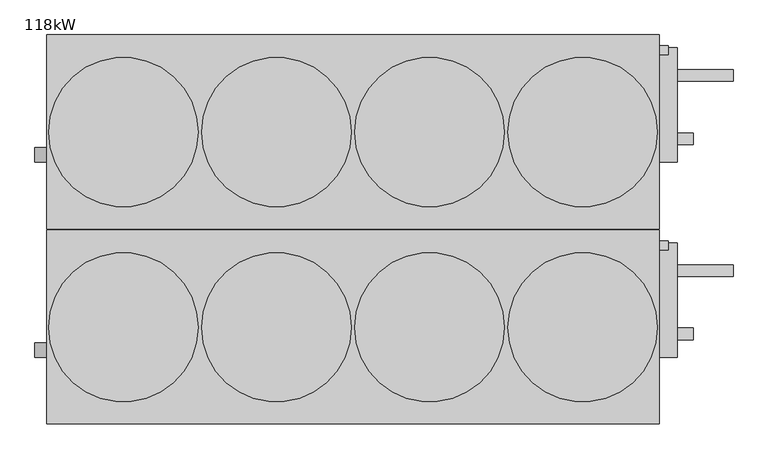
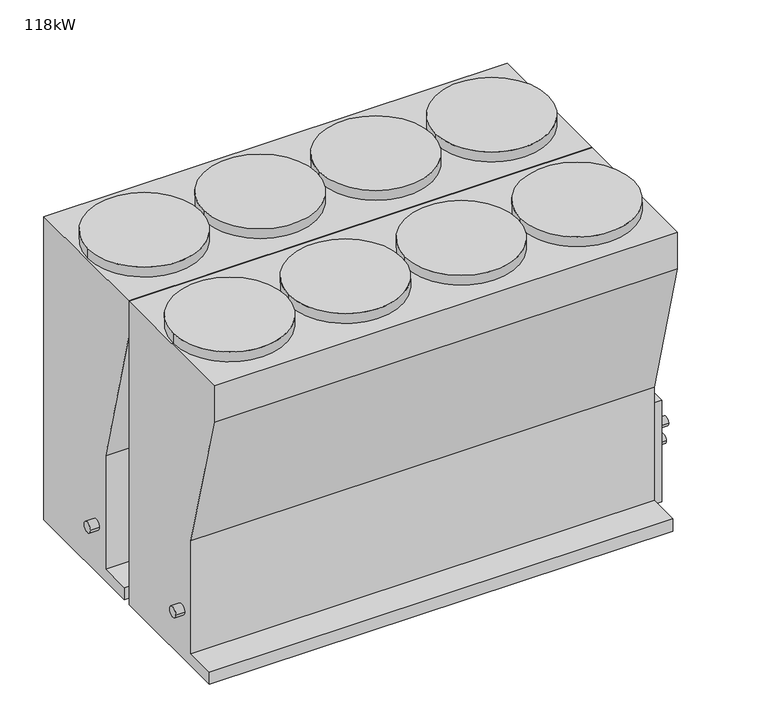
"""IFC4 building model written with IfcOpenShell, lengths in millimetres: unitary equipment geometry, 03020_AHP_空冷モジュールチラー_D : 118kW."""

from ifc_helpers import new_model, si_unit, point, frame, frame_2d, origin, place, context, project, spatial, polyline, circle_curve, trimmed, segment, composite_curve, outline, extrude, source, transform, mapped, element, save


def unitary_equipment_118kw_79313d1a(model_context):
    return source(origin(), model_context, "Body", "SweptSolid", [
        extrude(outline(composite_curve([segment(trimmed(circle_curve(frame_2d((945.7497625, 521.4020041)), 40.0), [point((905.7497625, 521.4020041))], [point((985.7497625, 521.4020041))], False, "CARTESIAN"), True, "CONTINUOUS"), segment(trimmed(circle_curve(frame_2d((945.7497625, 521.4020041)), 40.0), [point((985.7497625, 521.4020041))], [point((905.7497625, 521.4020041))], False, "CARTESIAN"), True, "CONTINUOUS")], self_intersect=False)), frame((-1766.0, 0.0, 0.0), z_axis=(1.0, 0.0, 0.0), x_axis=(0.0, 1.0, 0.0)), (0.0, 0.0, 1.0), 66.0),
        extrude(outline(composite_curve([segment(trimmed(circle_curve(frame_2d((1527.0, 974.0)), 25.0), [point((1502.0, 974.0))], [point((1552.0, 974.0))], False, "CARTESIAN"), True, "CONTINUOUS"), segment(trimmed(circle_curve(frame_2d((1527.0, 974.0)), 25.0), [point((1552.0, 974.0))], [point((1502.0, 974.0))], False, "CARTESIAN"), True, "CONTINUOUS")], self_intersect=False)), frame((1700.0, 0.0, 0.0), z_axis=(1.0, 0.0, 0.0), x_axis=(0.0, 1.0, 0.0)), (0.0, 0.0, 1.0), 51.0),
        extrude(outline(composite_curve([segment(trimmed(circle_curve(frame_2d((1035.645395, 535.0)), 32.5), [point((1003.145395, 535.0))], [point((1068.145395, 535.0))], False, "CARTESIAN"), True, "CONTINUOUS"), segment(trimmed(circle_curve(frame_2d((1035.645395, 535.0)), 32.5), [point((1068.145395, 535.0))], [point((1003.145395, 535.0))], False, "CARTESIAN"), True, "CONTINUOUS")], self_intersect=False)), frame((1800.0, 0.0, 0.0), z_axis=(1.0, 0.0, 0.0), x_axis=(0.0, 1.0, 0.0)), (0.0, 0.0, 1.0), 90.002526),
        extrude(outline(composite_curve([segment(trimmed(circle_curve(frame_2d((1387.6462608, 380.610754)), 32.5), [point((1355.1462608, 380.610754))], [point((1420.1462608, 380.610754))], False, "CARTESIAN"), True, "CONTINUOUS"), segment(trimmed(circle_curve(frame_2d((1387.6462608, 380.610754)), 32.5), [point((1420.1462608, 380.610754))], [point((1355.1462608, 380.610754))], False, "CARTESIAN"), True, "CONTINUOUS")], self_intersect=False)), frame((1800.0, 0.0, 0.0), z_axis=(1.0, 0.0, 0.0), x_axis=(0.0, 1.0, 0.0)), (0.0, 0.0, 1.0), 309.999795),
        extrude(outline(composite_curve([segment(trimmed(circle_curve(frame_2d((-425.0, 1072.648002)), 415.0), [point((-10.0, 1072.648002))], [point((-840.0, 1072.648002))], False, "CARTESIAN"), True, "CONTINUOUS"), segment(trimmed(circle_curve(frame_2d((-425.0, 1072.648002)), 415.0), [point((-840.0, 1072.648002))], [point((-10.0, 1072.648002))], False, "CARTESIAN"), True, "CONTINUOUS")], self_intersect=False)), frame((0.0, 0.0, 2504.0), z_axis=(0.0, 0.0, 1.0), x_axis=(1.0, 0.0, 0.0)), (0.0, 0.0, 1.0), 76.0),
        extrude(outline(composite_curve([segment(trimmed(circle_curve(frame_2d((-1275.0, 1072.648002)), 415.0), [point((-860.0, 1072.648002))], [point((-1690.0, 1072.648002))], False, "CARTESIAN"), True, "CONTINUOUS"), segment(trimmed(circle_curve(frame_2d((-1275.0, 1072.648002)), 415.0), [point((-1690.0, 1072.648002))], [point((-860.0, 1072.648002))], False, "CARTESIAN"), True, "CONTINUOUS")], self_intersect=False)), frame((0.0, 0.0, 2504.0), z_axis=(0.0, 0.0, 1.0), x_axis=(1.0, 0.0, 0.0)), (0.0, 0.0, 1.0), 76.0),
        extrude(outline(composite_curve([segment(trimmed(circle_curve(frame_2d((425.0, 1072.648002)), 415.0), [point((10.0, 1072.648002))], [point((840.0, 1072.648002))], False, "CARTESIAN"), True, "CONTINUOUS"), segment(trimmed(circle_curve(frame_2d((425.0, 1072.648002)), 415.0), [point((840.0, 1072.648002))], [point((10.0, 1072.648002))], False, "CARTESIAN"), True, "CONTINUOUS")], self_intersect=False)), frame((0.0, 0.0, 2504.0), z_axis=(0.0, 0.0, 1.0), x_axis=(1.0, 0.0, 0.0)), (0.0, 0.0, 1.0), 76.0),
        extrude(outline(polyline([(1612.645395, 2504.0), (1612.645395, 150.0), (592.645395, 150.0), (592.645395, 244.142338), (829.3250253, 244.142338), (829.3250253, 1123.0832242), (535.0, 2221.5191749), (535.0, 2504.0), (1612.645395, 2504.0)])), frame((-1700.0, 0.0, 0.0), z_axis=(1.0, 0.0, 0.0), x_axis=(0.0, 1.0, 0.0)), (0.0, 0.0, 1.0), 3400.0),
        extrude(outline(composite_curve([segment(trimmed(circle_curve(frame_2d((1275.0, 1072.648002)), 415.0), [point((860.0, 1072.648002))], [point((1690.0, 1072.648002))], False, "CARTESIAN"), True, "CONTINUOUS"), segment(trimmed(circle_curve(frame_2d((1275.0, 1072.648002)), 415.0), [point((1690.0, 1072.648002))], [point((860.0, 1072.648002))], False, "CARTESIAN"), True, "CONTINUOUS")], self_intersect=False)), frame((0.0, 0.0, 2504.0), z_axis=(0.0, 0.0, 1.0), x_axis=(1.0, 0.0, 0.0)), (0.0, 0.0, 1.0), 76.0),
        extrude(outline(polyline([(1800.0, 1540.742862), (1800.0, 906.842862), (1700.0, 906.842862), (1700.0, 1540.742862), (1800.0, 1540.742862)])), frame((0.0, 0.0, 150.0), z_axis=(0.0, 0.0, 1.0), x_axis=(1.0, 0.0, 0.0)), (0.0, 0.0, 1.0), 787.997766),
        extrude(outline(composite_curve([segment(trimmed(circle_curve(frame_2d((-139.2502375, 521.4020041)), 40.0), [point((-179.2502375, 521.4020041))], [point((-99.2502375, 521.4020041))], False, "CARTESIAN"), True, "CONTINUOUS"), segment(trimmed(circle_curve(frame_2d((-139.2502375, 521.4020041)), 40.0), [point((-99.2502375, 521.4020041))], [point((-179.2502375, 521.4020041))], False, "CARTESIAN"), True, "CONTINUOUS")], self_intersect=False)), frame((-1766.0, 0.0, 0.0), z_axis=(1.0, 0.0, 0.0), x_axis=(0.0, 1.0, 0.0)), (0.0, 0.0, 1.0), 66.0),
        extrude(outline(composite_curve([segment(trimmed(circle_curve(frame_2d((442.0, 974.0)), 25.0), [point((417.0, 974.0))], [point((467.0, 974.0))], False, "CARTESIAN"), True, "CONTINUOUS"), segment(trimmed(circle_curve(frame_2d((442.0, 974.0)), 25.0), [point((467.0, 974.0))], [point((417.0, 974.0))], False, "CARTESIAN"), True, "CONTINUOUS")], self_intersect=False)), frame((1700.0, 0.0, 0.0), z_axis=(1.0, 0.0, 0.0), x_axis=(0.0, 1.0, 0.0)), (0.0, 0.0, 1.0), 51.0),
        extrude(outline(composite_curve([segment(trimmed(circle_curve(frame_2d((-49.354605, 535.0)), 32.5), [point((-81.854605, 535.0))], [point((-16.854605, 535.0))], False, "CARTESIAN"), True, "CONTINUOUS"), segment(trimmed(circle_curve(frame_2d((-49.354605, 535.0)), 32.5), [point((-16.854605, 535.0))], [point((-81.854605, 535.0))], False, "CARTESIAN"), True, "CONTINUOUS")], self_intersect=False)), frame((1800.0, 0.0, 0.0), z_axis=(1.0, 0.0, 0.0), x_axis=(0.0, 1.0, 0.0)), (0.0, 0.0, 1.0), 90.002526),
        extrude(outline(composite_curve([segment(trimmed(circle_curve(frame_2d((302.6462608, 380.610754)), 32.5), [point((270.1462608, 380.610754))], [point((335.1462608, 380.610754))], False, "CARTESIAN"), True, "CONTINUOUS"), segment(trimmed(circle_curve(frame_2d((302.6462608, 380.610754)), 32.5), [point((335.1462608, 380.610754))], [point((270.1462608, 380.610754))], False, "CARTESIAN"), True, "CONTINUOUS")], self_intersect=False)), frame((1800.0, 0.0, 0.0), z_axis=(1.0, 0.0, 0.0), x_axis=(0.0, 1.0, 0.0)), (0.0, 0.0, 1.0), 309.999795),
        extrude(outline(composite_curve([segment(trimmed(circle_curve(frame_2d((-425.0, -12.351998)), 415.0), [point((-10.0, -12.351998))], [point((-840.0, -12.351998))], False, "CARTESIAN"), True, "CONTINUOUS"), segment(trimmed(circle_curve(frame_2d((-425.0, -12.351998)), 415.0), [point((-840.0, -12.351998))], [point((-10.0, -12.351998))], False, "CARTESIAN"), True, "CONTINUOUS")], self_intersect=False)), frame((0.0, 0.0, 2504.0), z_axis=(0.0, 0.0, 1.0), x_axis=(1.0, 0.0, 0.0)), (0.0, 0.0, 1.0), 76.0),
        extrude(outline(composite_curve([segment(trimmed(circle_curve(frame_2d((-1275.0, -12.351998)), 415.0), [point((-860.0, -12.351998))], [point((-1690.0, -12.351998))], False, "CARTESIAN"), True, "CONTINUOUS"), segment(trimmed(circle_curve(frame_2d((-1275.0, -12.351998)), 415.0), [point((-1690.0, -12.351998))], [point((-860.0, -12.351998))], False, "CARTESIAN"), True, "CONTINUOUS")], self_intersect=False)), frame((0.0, 0.0, 2504.0), z_axis=(0.0, 0.0, 1.0), x_axis=(1.0, 0.0, 0.0)), (0.0, 0.0, 1.0), 76.0),
        extrude(outline(composite_curve([segment(trimmed(circle_curve(frame_2d((425.0, -12.351998)), 415.0), [point((10.0, -12.351998))], [point((840.0, -12.351998))], False, "CARTESIAN"), True, "CONTINUOUS"), segment(trimmed(circle_curve(frame_2d((425.0, -12.351998)), 415.0), [point((840.0, -12.351998))], [point((10.0, -12.351998))], False, "CARTESIAN"), True, "CONTINUOUS")], self_intersect=False)), frame((0.0, 0.0, 2504.0), z_axis=(0.0, 0.0, 1.0), x_axis=(1.0, 0.0, 0.0)), (0.0, 0.0, 1.0), 76.0),
        extrude(outline(polyline([(527.645395, 2504.0), (527.645395, 150.0), (-492.354605, 150.0), (-492.354605, 244.142338), (-255.6749747, 244.142338), (-255.6749747, 1123.0832242), (-550.0, 2221.5191749), (-550.0, 2504.0), (527.645395, 2504.0)])), frame((-1700.0, 0.0, 0.0), z_axis=(1.0, 0.0, 0.0), x_axis=(0.0, 1.0, 0.0)), (0.0, 0.0, 1.0), 3400.0),
        extrude(outline(composite_curve([segment(trimmed(circle_curve(frame_2d((1275.0, -12.351998)), 415.0), [point((860.0, -12.351998))], [point((1690.0, -12.351998))], False, "CARTESIAN"), True, "CONTINUOUS"), segment(trimmed(circle_curve(frame_2d((1275.0, -12.351998)), 415.0), [point((1690.0, -12.351998))], [point((860.0, -12.351998))], False, "CARTESIAN"), True, "CONTINUOUS")], self_intersect=False)), frame((0.0, 0.0, 2504.0), z_axis=(0.0, 0.0, 1.0), x_axis=(1.0, 0.0, 0.0)), (0.0, 0.0, 1.0), 76.0),
        extrude(outline(polyline([(1800.0, 455.742862), (1800.0, -178.157138), (1700.0, -178.157138), (1700.0, 455.742862), (1800.0, 455.742862)])), frame((0.0, 0.0, 150.0), z_axis=(0.0, 0.0, 1.0), x_axis=(1.0, 0.0, 0.0)), (0.0, 0.0, 1.0), 787.997766),
    ])


if __name__ == "__main__":
    model = new_model("IFC4")
    model_context = context("Model", 3, world=origin())
    ifc_project = project(units=[si_unit("LENGTHUNIT", "METRE", prefix="MILLI")], contexts=[model_context])
    site = spatial("IfcSite", under=ifc_project)
    building = spatial("IfcBuilding", under=site)
    placement = place(None, origin())
    unitary_equipment_118kw_shape = unitary_equipment_118kw_79313d1a(model_context)
    element("IfcUnitaryEquipment", 1, ObjectType="03020_AHP_空冷モジュールチラー_D : 118kW", at=placement, inside=building, context=model_context, shape_type="MappedRepresentation", body=[
        mapped(unitary_equipment_118kw_shape, transform((0.0, 0.0, 0.0), x_axis=(1.0, 0.0, 0.0), y_axis=(0.0, 1.0, 0.0), z_axis=(0.0, 0.0, 1.0))),
    ])
    save(model, "model.ifc")
